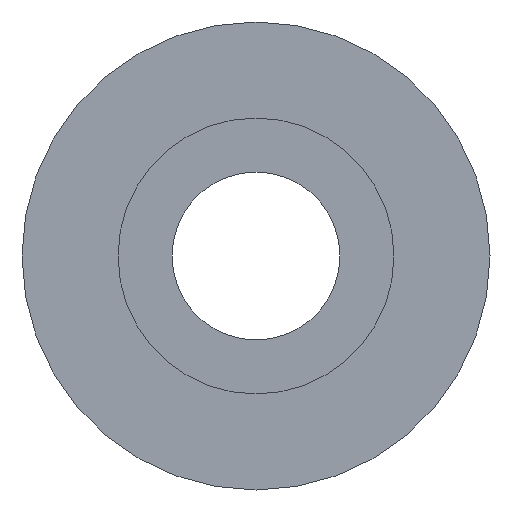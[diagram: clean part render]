
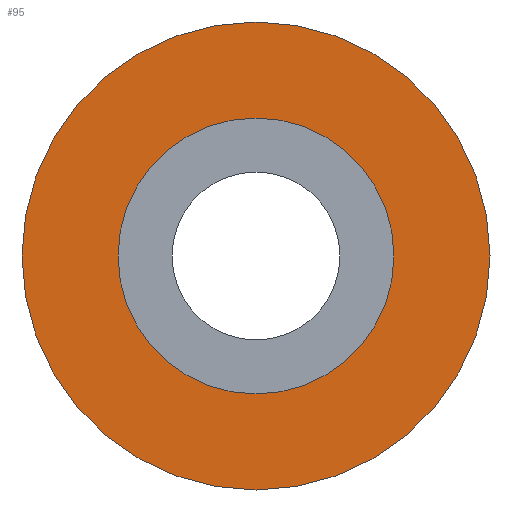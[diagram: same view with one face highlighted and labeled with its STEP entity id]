
A CAD part, left-side view. The second image highlights one B-rep face of the part: STEP entity #95.
In plain terms, the highlighted planar face has unit normal (-1, 0, 0).
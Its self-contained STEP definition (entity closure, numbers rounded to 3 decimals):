
#13=PLANE($,#110);
#19=FACE_BOUND($,#38,.T.);
#30=FACE_OUTER_BOUND($,#37,.T.);
#37=EDGE_LOOP($,(#77));
#38=EDGE_LOOP($,(#78));
#51=CIRCLE($,#108,0.584);
#53=CIRCLE($,#111,0.991);
#59=VERTEX_POINT($,#161);
#61=VERTEX_POINT($,#166);
#67=EDGE_CURVE($,#59,#59,#51,.T.);
#69=EDGE_CURVE($,#61,#61,#53,.T.);
#77=ORIENTED_EDGE($,*,*,#69,.F.);
#78=ORIENTED_EDGE($,*,*,#67,.T.);
#95=ADVANCED_FACE($,(#30,#19),#13,.T.);
#108=AXIS2_PLACEMENT_3D($,#162,#130,#131);
#110=AXIS2_PLACEMENT_3D($,#165,#134,#135);
#111=AXIS2_PLACEMENT_3D($,#167,#136,#137);
#130=DIRECTION('center_axis',(1.,0.,0.));
#131=DIRECTION('ref_axis',(0.,1.,0.));
#134=DIRECTION('center_axis',(-1.,0.,0.));
#135=DIRECTION('ref_axis',(0.,0.,1.));
#136=DIRECTION('center_axis',(1.,0.,0.));
#137=DIRECTION('ref_axis',(0.,1.,0.));
#161=CARTESIAN_POINT('',(2.286,0.584,0.));
#162=CARTESIAN_POINT('Origin',(2.286,0.,0.));
#165=CARTESIAN_POINT('Origin',(2.286,0.787,0.));
#166=CARTESIAN_POINT('',(2.286,0.991,0.));
#167=CARTESIAN_POINT('Origin',(2.286,0.,0.));
